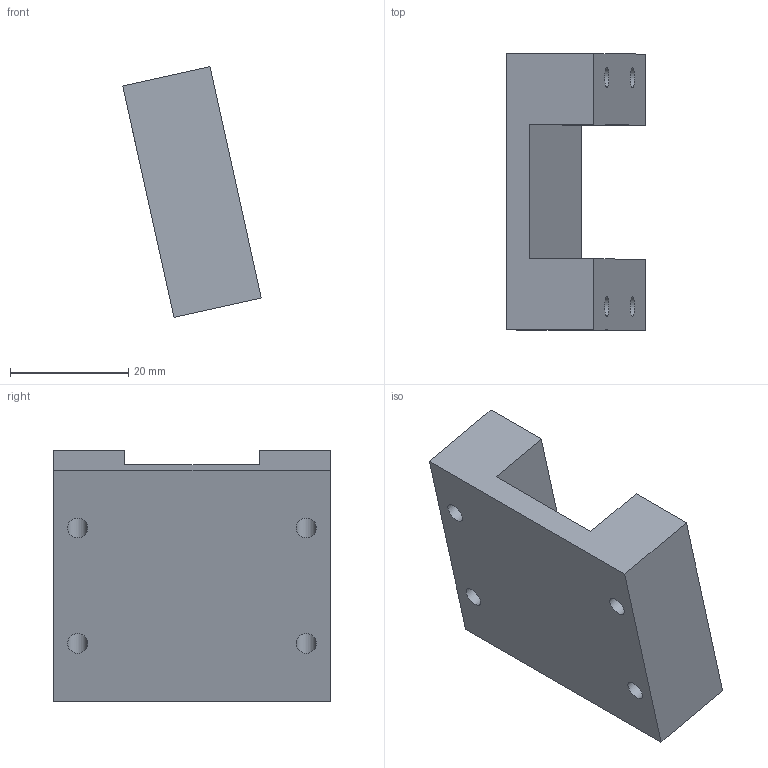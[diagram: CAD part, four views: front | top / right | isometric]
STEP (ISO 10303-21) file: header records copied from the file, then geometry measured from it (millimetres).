
FILE_DESCRIPTION(('Open CASCADE Model'),'2;1');
FILE_NAME('Open CASCADE Shape Model','2026-10-17T22:15:36',('Author'),( 'Open CASCADE'),'Open CASCADE STEP processor 7.9','Open CASCADE 7.9' ,'Unknown');
FILE_SCHEMA(('AUTOMOTIVE_DESIGN { 1 0 10303 214 1 1 1 1 }'));
Length unit declared in the file: millimetre
Products named in the file (1): Open CASCADE STEP translator 7.9 4
Bounding box: 23.37 x 46.65 x 42.31 mm (x, y, z)
Volume: 17548.5 mm3; surface area: 7300.3 mm2
Topology: 1 solids, 1 shells, 14 faces, 36 edges, 24 vertices
Faces by surface type: plane 10, cylinder 4
Full cylindrical faces by diameter (mm): 3.4 x4
Entity records: 930 total; most frequent: CARTESIAN_POINT 211, DIRECTION 122, LINE 76, VECTOR 76, ORIENTED_EDGE 72, PCURVE 72, DEFINITIONAL_REPRESENTATION 72, EDGE_CURVE 36
